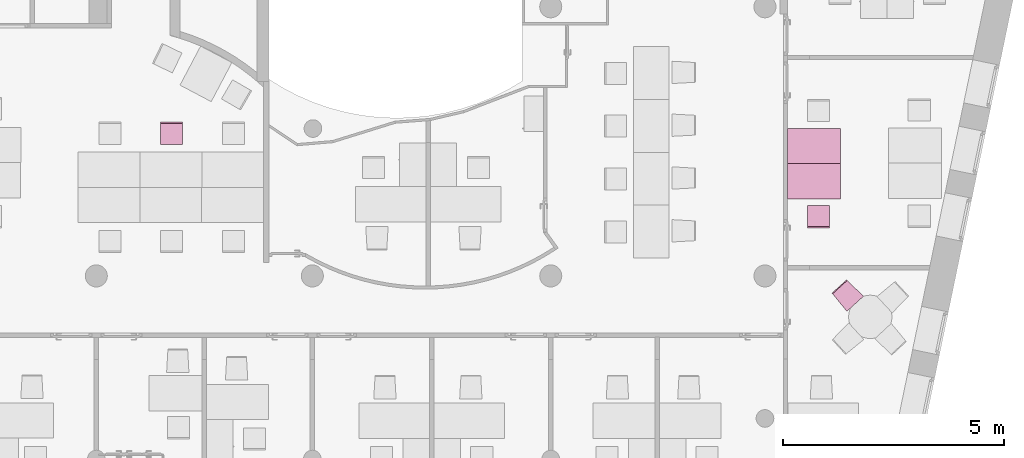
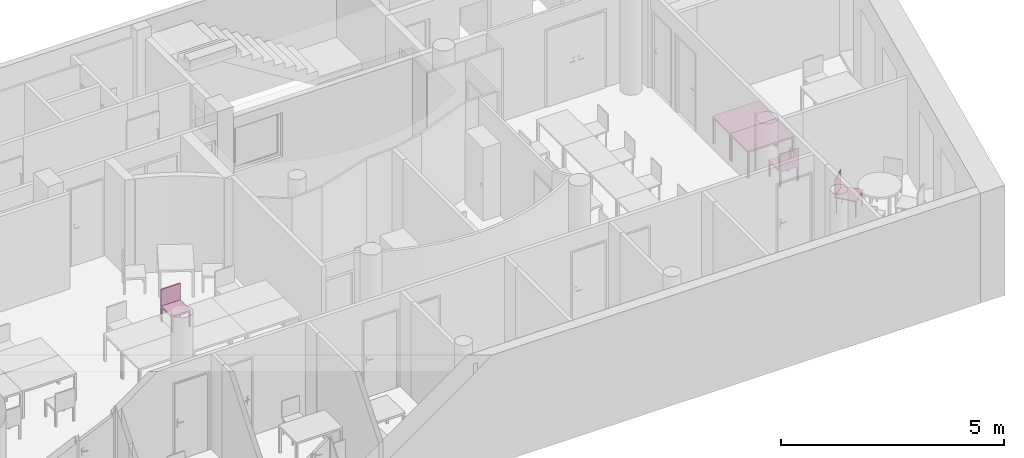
"""IFC4 building model written with IfcOpenShell, lengths in metres."""

import ifcopenshell
import ifcopenshell.guid

model = None  # the IFC model being written
_history = None  # IfcOwnerHistory: only IFC2X3 demands one
_inside = {}  # id of a spatial element -> (the spatial element, [elements in it])
_under = {}  # id of a project, library or spatial element -> (it, [spatial elements below it])
_declared = {}  # id of a project -> (the project, [libraries it declares])
_typed = {}  # id of a type object -> (the type object, [elements of that type])
_made_of = {}  # id of a material, layer set ... -> (it, [elements and type objects made of it])


def new_model(schema):
    """Start an empty IFC model of exactly this schema.

    Asked for "IFC4X3", IfcOpenShell would pick the latest addendum, in which some entities
    have other attributes; the version numbers below select the first issue.
    IFC2X3 requires an IfcOwnerHistory on every rooted entity: one is made here for all.
    """
    global model, _history
    if schema == "IFC4X3":
        model = ifcopenshell.file(schema_version=(4, 3, 0, 0))
    else:
        model = ifcopenshell.file(schema=schema)
    _inside.clear()
    _under.clear()
    _declared.clear()
    _typed.clear()
    _made_of.clear()
    _history = None
    if model.schema == "IFC2X3":
        org = make("IfcOrganization", Name="unknown")
        user = make(
            "IfcPersonAndOrganization",
            ThePerson=make("IfcPerson", FamilyName="unknown"),
            TheOrganization=org,
        )
        app = make(
            "IfcApplication",
            ApplicationDeveloper=org,
            Version="unknown",
            ApplicationFullName="unknown",
            ApplicationIdentifier="unknown",
        )
        _history = make(
            "IfcOwnerHistory",
            OwningUser=user,
            OwningApplication=app,
            ChangeAction="ADDED",
            CreationDate=0,
        )
    return model


def make(cls, **values):
    """One entity of the class cls with the attributes given. An attribute that is None is left unset."""
    return model.create_entity(
        cls, **{name: value for name, value in values.items() if value is not None}
    )


def entity(cls, *values):
    """Any entity or typed value of the class cls, its attributes in the order of the schema. None: left unset."""
    e = model.create_entity(cls)
    for i, value in enumerate(values):
        if value is not None:
            e[i] = value
    return e


def rooted(cls, **values):
    """An entity with a GlobalId (a new one), such as an element, a storey or a relation."""
    return make(cls, GlobalId=ifcopenshell.guid.new(), OwnerHistory=_history, **values)


def si_unit(unit_type, name, prefix=None):
    """IfcSIUnit, for example si_unit("LENGTHUNIT", "METRE", prefix="MILLI")."""
    return make("IfcSIUnit", UnitType=unit_type, Prefix=prefix, Name=name)


def converted_unit(unit_type, name, factor, base, dimensions=None, offset=None):
    """IfcConversionBasedUnit, such as the inch: factor (a typed value) times the base unit."""
    return make(
        "IfcConversionBasedUnit"
        if offset is None
        else "IfcConversionBasedUnitWithOffset",
        ConversionOffset=offset,
        Dimensions=None
        if dimensions is None
        else entity("IfcDimensionalExponents", *dimensions),
        UnitType=unit_type,
        Name=name,
        ConversionFactor=make(
            "IfcMeasureWithUnit", ValueComponent=factor, UnitComponent=base
        ),
    )


def derived_unit(unit_type, elements):
    """IfcDerivedUnit: a product of units, each with its exponent."""
    return make(
        "IfcDerivedUnit",
        Elements=[
            make("IfcDerivedUnitElement", Unit=unit, Exponent=power)
            for unit, power in elements
        ],
        UnitType=unit_type,
    )


def assignment(units):
    """IfcUnitAssignment: the units of a project."""
    return None if units is None else make("IfcUnitAssignment", Units=units)


def point(xyz):
    """IfcCartesianPoint."""
    return None if xyz is None else make("IfcCartesianPoint", Coordinates=xyz)


def direction(xyz):
    """IfcDirection."""
    return None if xyz is None else make("IfcDirection", DirectionRatios=xyz)


def frame(location, z_axis=None, x_axis=None):
    """IfcAxis2Placement3D, a coordinate frame: its origin and axes. An axis left out is left unset."""
    return make(
        "IfcAxis2Placement3D",
        Location=point(location),
        Axis=direction(z_axis),
        RefDirection=direction(x_axis),
    )


def origin():
    """The frame at (0, 0, 0) with its axes left unset."""
    return frame((0.0, 0.0, 0.0))


def place(relative_to, where):
    """IfcLocalPlacement: puts the frame where relative to a parent placement (None: the world)."""
    return make(
        "IfcLocalPlacement", PlacementRelTo=relative_to, RelativePlacement=where
    )


def context(
    kind, dimensions, precision=None, world=None, true_north=None, identifier=None
):
    """IfcGeometricRepresentationContext, for example the 3D "Model" context."""
    return make(
        "IfcGeometricRepresentationContext",
        ContextIdentifier=identifier,
        ContextType=kind,
        CoordinateSpaceDimension=dimensions,
        Precision=precision,
        WorldCoordinateSystem=world,
        TrueNorth=true_north,
    )


def subcontext(parent, identifier, kind, view, scale=None):
    """IfcGeometricRepresentationSubContext, for example "Body" below "Model"."""
    return make(
        "IfcGeometricRepresentationSubContext",
        ContextIdentifier=identifier,
        ContextType=kind,
        ParentContext=parent,
        TargetScale=scale,
        TargetView=view,
    )


def project(units=None, contexts=None):
    """IfcProject with its units and contexts."""
    return rooted(
        "IfcProject",
        Name="project",
        RepresentationContexts=contexts,
        UnitsInContext=assignment(units),
    )


def spatial(cls, under=None, at=None, **own):
    """A site, building, storey or space (cls), placed at a placement, below another one or the project."""
    s = rooted(cls, ObjectPlacement=at, **own)
    if under is not None:
        _under.setdefault(under.id(), (under, []))[1].append(s)
    return s


def faces_of(points, faces, orient=None, outer=None):
    """IfcFace entities. A face is a list of loops; a loop is a list of indices into points, from 0.

    orient and outer hold one flag for each loop. By default every Orientation is true, the
    first loop of a face is its IfcFaceOuterBound and the others are IfcFaceBound.
    """
    made = []
    for i, loops in enumerate(faces):
        bounds = []
        for j, loop in enumerate(loops):
            is_outer = j == 0 if outer is None else outer[i][j]
            bounds.append(
                make(
                    "IfcFaceOuterBound" if is_outer else "IfcFaceBound",
                    Bound=make("IfcPolyLoop", Polygon=[points[k] for k in loop]),
                    Orientation=True if orient is None else orient[i][j],
                )
            )
        made.append(make("IfcFace", Bounds=bounds))
    return made


def faceted_brep(points, faces, orient=None, outer=None, voids=None):
    """IfcFacetedBrep: a solid bounded by flat faces; with voids (closed shells), ...WithVoids."""
    shared = [point(p) for p in points]
    hull = make("IfcClosedShell", CfsFaces=faces_of(shared, faces, orient, outer))
    if voids is None:
        return make("IfcFacetedBrep", Outer=hull)
    return make(
        "IfcFacetedBrepWithVoids",
        Outer=hull,
        Voids=[
            make(cls, CfsFaces=faces_of(shared, fs, o, b)) for cls, fs, o, b in voids
        ],
    )


def shape(context_of_items, identifier, shape_type, items):
    """IfcShapeRepresentation: the items that make up one representation, for example the "Body"."""
    return make(
        "IfcShapeRepresentation",
        ContextOfItems=context_of_items,
        RepresentationIdentifier=identifier,
        RepresentationType=shape_type,
        Items=items,
    )


def made_of(thing, what):
    """Note that an element or type object is made of a material, layer set ...; save() writes the relation."""
    if what is not None:
        _made_of.setdefault(what.id(), (what, []))[1].append(thing)
    return thing


def element(
    cls,
    number,
    at=None,
    inside=None,
    cuts=None,
    type_object=None,
    material=None,
    context=None,
    identifier="Body",
    shape_type=None,
    held_by="IfcProductDefinitionShape",
    body=None,
    shapes=None,
    **own,
):
    """One element of the class cls, such as IfcWall. Its Tag is "e" and its number.

    at: its placement. inside: the storey or other place that contains it. cuts: it is an
    opening in that element (IfcRelVoidsElement). A single representation is given by context,
    identifier, shape_type and body (its items); several are given by shapes. held_by: the class
    of the entity that holds the representations. save() writes the other relations.
    """
    e = rooted(cls, Tag="e%d" % number, ObjectPlacement=at, **own)
    if body is not None:
        shapes = [shape(context, identifier, shape_type, body)]
    if shapes is not None:
        e.Representation = make(held_by, Representations=shapes)
    if inside is not None:
        _inside.setdefault(inside.id(), (inside, []))[1].append(e)
    if cuts is not None:
        rooted(
            "IfcRelVoidsElement", RelatingBuildingElement=cuts, RelatedOpeningElement=e
        )
    if type_object is not None:
        _typed.setdefault(type_object.id(), (type_object, []))[1].append(e)
    return made_of(e, material)


def aggregate(whole, parts):
    """IfcRelAggregates: a whole, such as a stair, and the parts it consists of."""
    return rooted("IfcRelAggregates", RelatingObject=whole, RelatedObjects=parts)


def save(model, path):
    """Write the relations noted so far, then the file.

    IfcRelAggregates (storeys below a building ...), IfcRelContainedInSpatialStructure (elements
    in a storey), IfcRelDefinesByType, IfcRelAssociatesMaterial and IfcRelDeclares: one each for
    every whole, place, type object, material and project.
    """
    for whole, parts in _under.values():
        aggregate(whole, parts)
    for where, things in _inside.values():
        rooted(
            "IfcRelContainedInSpatialStructure",
            RelatedElements=things,
            RelatingStructure=where,
        )
    for kind, things in _typed.values():
        rooted("IfcRelDefinesByType", RelatedObjects=things, RelatingType=kind)
    for what, things in _made_of.values():
        rooted("IfcRelAssociatesMaterial", RelatedObjects=things, RelatingMaterial=what)
    for by, libraries in _declared.values():
        rooted("IfcRelDeclares", RelatingContext=by, RelatedDefinitions=libraries)
    model.write(path)


model = new_model("IFC4")

# Units and contexts
model_context = context("Model", 3, precision=1e-05, world=origin())
body_context = subcontext(model_context, "Body", "Model", "MODEL_VIEW")
ifc_project = project(units=[si_unit("LENGTHUNIT", "METRE"), si_unit("AREAUNIT", "SQUARE_METRE"), si_unit("VOLUMEUNIT", "CUBIC_METRE"), si_unit("MASSUNIT", "GRAM", prefix="KILO"), converted_unit("PLANEANGLEUNIT", "DEGREE", entity("IfcPlaneAngleMeasure", 0.0174532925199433), si_unit("PLANEANGLEUNIT", "RADIAN"), dimensions=[0, 0, 0, 0, 0, 0, 0]), derived_unit("THERMALTRANSMITTANCEUNIT", [(si_unit("POWERUNIT", "WATT"), 1), (si_unit("THERMODYNAMICTEMPERATUREUNIT", "KELVIN"), -1), (si_unit("LENGTHUNIT", "METRE"), -2)]), derived_unit("VOLUMETRICFLOWRATEUNIT", [(si_unit("LENGTHUNIT", "METRE"), 3), (converted_unit("TIMEUNIT", "hour", entity("IfcTimeMeasure", 3600.0), si_unit("TIMEUNIT", "SECOND"), dimensions=[0, 0, 1, 0, 0, 0, 0]), -1), (si_unit("LENGTHUNIT", "METRE"), -1)])], contexts=[model_context])

# Building, storeys
building_placement = place(None, origin())
building = spatial("IfcBuilding", under=ifc_project, at=building_placement, Name="HABITATGE PLURIFAMILIAR", CompositionType="ELEMENT")
storey_1_placement = place(building_placement, frame((0.0, 0.0, 6.25)))
storey_1 = spatial("IfcBuildingStorey", under=building, at=storey_1_placement, Name="PLANTA PRIMERA", CompositionType="ELEMENT", Elevation=6.25)
storey_2_placement = place(storey_1_placement, frame((0.0, 0.0, 3.35)))
storey_2 = spatial("IfcBuildingStorey", under=storey_1, at=storey_2_placement, Name="NOU", CompositionType="PARTIAL")

# Furniture
furniture_1_placement = place(storey_2_placement, frame((421.506984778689, 20.3428302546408, -3.35)))
element("IfcFurniture", 1, at=furniture_1_placement, inside=storey_2, Name="Taula 120X80_P1", context=body_context, shape_type="Brep", body=[
    faceted_brep([(0.046428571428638, 0.0500000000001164, 0.0), (0.0, 0.0500000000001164, 0.0), (0.0, 0.0, 0.0), (0.046428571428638, 0.0, 0.0), (0.046428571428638, 0.0, 0.7), (0.0, 0.0, 0.7), (0.0, 0.0500000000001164, 0.7), (0.046428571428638, 0.0500000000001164, 0.7)], [[[0, 1, 2, 3]], [[4, 5, 6, 7]], [[3, 4, 7, 0]], [[2, 5, 4, 3]], [[1, 6, 5, 2]], [[0, 7, 6, 1]]], orient=[[False], [False], [False], [False], [False], [False]]),
    faceted_brep([(0.046428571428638, 0.800069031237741, 0.0), (0.0, 0.800069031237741, 0.0), (0.0, 0.750069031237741, 0.0), (0.046428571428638, 0.750069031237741, 0.0), (0.046428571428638, 0.750069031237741, 0.7), (0.0, 0.750069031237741, 0.7), (0.0, 0.800069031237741, 0.7), (0.046428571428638, 0.800069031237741, 0.7)], [[[0, 1, 2, 3]], [[4, 5, 6, 7]], [[3, 4, 7, 0]], [[2, 5, 4, 3]], [[1, 6, 5, 2]], [[0, 7, 6, 1]]], orient=[[False], [False], [False], [False], [False], [False]]),
    faceted_brep([(1.20000000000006, 0.05, 0.0), (1.15357142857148, 0.05, 0.0), (1.15357142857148, 0.0, 0.0), (1.20000000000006, 0.0, 0.0), (1.20000000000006, 0.0, 0.7), (1.15357142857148, 0.0, 0.7), (1.15357142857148, 0.05, 0.7), (1.20000000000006, 0.05, 0.7)], [[[0, 1, 2, 3]], [[4, 5, 6, 7]], [[3, 4, 7, 0]], [[2, 5, 4, 3]], [[1, 6, 5, 2]], [[0, 7, 6, 1]]], orient=[[False], [False], [False], [False], [False], [False]]),
    faceted_brep([(1.20000000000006, 0.800069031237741, 0.0), (1.15357142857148, 0.800069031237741, 0.0), (1.15357142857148, 0.750069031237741, 0.0), (1.20000000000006, 0.750069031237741, 0.0), (1.20000000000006, 0.750069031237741, 0.7), (1.15357142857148, 0.750069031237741, 0.7), (1.15357142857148, 0.800069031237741, 0.7), (1.20000000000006, 0.800069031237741, 0.7)], [[[0, 1, 2, 3]], [[4, 5, 6, 7]], [[3, 4, 7, 0]], [[2, 5, 4, 3]], [[1, 6, 5, 2]], [[0, 7, 6, 1]]], orient=[[False], [False], [False], [False], [False], [False]]),
    faceted_brep([(1.20000000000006, 0.800069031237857, 0.7), (0.0, 0.800069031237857, 0.7), (0.0, 0.0, 0.7), (1.20000000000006, 0.0, 0.7), (1.20000000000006, 0.0, 0.75), (0.0, 0.0, 0.75), (0.0, 0.800069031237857, 0.75), (1.20000000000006, 0.800069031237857, 0.75)], [[[0, 1, 2, 3]], [[4, 5, 6, 7]], [[3, 4, 7, 0]], [[2, 5, 4, 3]], [[1, 6, 5, 2]], [[0, 7, 6, 1]]], orient=[[False], [False], [False], [False], [False], [False]]),
])
furniture_2_placement = place(storey_2_placement, frame((421.506984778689, 19.5427612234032, -3.35)))
element("IfcFurniture", 2, at=furniture_2_placement, inside=storey_2, Name="Taula 120X80_P1", context=body_context, shape_type="Brep", body=[
    faceted_brep([(0.046428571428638, 0.750069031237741, 0.0), (0.046428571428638, 0.800069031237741, 0.0), (0.0, 0.800069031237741, 0.0), (0.0, 0.750069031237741, 0.0), (0.046428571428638, 0.800069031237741, 0.7), (0.046428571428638, 0.750069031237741, 0.7), (0.0, 0.750069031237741, 0.7), (0.0, 0.800069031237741, 0.7)], [[[0, 1, 2, 3]], [[4, 5, 6, 7]], [[1, 0, 5, 4]], [[2, 1, 4, 7]], [[3, 2, 7, 6]], [[0, 3, 6, 5]]], orient=[[False], [False], [False], [False], [False], [False]]),
    faceted_brep([(0.046428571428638, 0.0, 0.0), (0.046428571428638, 0.0500000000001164, 0.0), (0.0, 0.0500000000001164, 0.0), (0.0, 0.0, 0.0), (0.046428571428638, 0.0500000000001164, 0.7), (0.046428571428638, 0.0, 0.7), (0.0, 0.0, 0.7), (0.0, 0.0500000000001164, 0.7)], [[[0, 1, 2, 3]], [[4, 5, 6, 7]], [[1, 0, 5, 4]], [[2, 1, 4, 7]], [[3, 2, 7, 6]], [[0, 3, 6, 5]]], orient=[[False], [False], [False], [False], [False], [False]]),
    faceted_brep([(1.20000000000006, 0.750069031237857, 0.0), (1.20000000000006, 0.800069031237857, 0.0), (1.15357142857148, 0.800069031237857, 0.0), (1.15357142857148, 0.750069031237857, 0.0), (1.20000000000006, 0.800069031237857, 0.7), (1.20000000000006, 0.750069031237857, 0.7), (1.15357142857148, 0.750069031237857, 0.7), (1.15357142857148, 0.800069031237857, 0.7)], [[[0, 1, 2, 3]], [[4, 5, 6, 7]], [[1, 0, 5, 4]], [[2, 1, 4, 7]], [[3, 2, 7, 6]], [[0, 3, 6, 5]]], orient=[[False], [False], [False], [False], [False], [False]]),
    faceted_brep([(1.20000000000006, 0.0, 0.0), (1.20000000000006, 0.0500000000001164, 0.0), (1.15357142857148, 0.0500000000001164, 0.0), (1.15357142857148, 0.0, 0.0), (1.20000000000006, 0.0500000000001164, 0.7), (1.20000000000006, 0.0, 0.7), (1.15357142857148, 0.0, 0.7), (1.15357142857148, 0.0500000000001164, 0.7)], [[[0, 1, 2, 3]], [[4, 5, 6, 7]], [[1, 0, 5, 4]], [[2, 1, 4, 7]], [[3, 2, 7, 6]], [[0, 3, 6, 5]]], orient=[[False], [False], [False], [False], [False], [False]]),
    faceted_brep([(1.20000000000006, 0.0, 0.7), (1.20000000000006, 0.800069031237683, 0.7), (0.0, 0.800069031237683, 0.7), (0.0, 0.0, 0.7), (1.20000000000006, 0.800069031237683, 0.75), (1.20000000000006, 0.0, 0.75), (0.0, 0.0, 0.75), (0.0, 0.800069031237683, 0.75)], [[[0, 1, 2, 3]], [[4, 5, 6, 7]], [[1, 0, 5, 4]], [[2, 1, 4, 7]], [[3, 2, 7, 6]], [[0, 3, 6, 5]]], orient=[[False], [False], [False], [False], [False], [False]]),
])
furniture_3_placement = place(storey_2_placement, frame((421.952713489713, 18.8908335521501, -3.34942958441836)))
element("IfcFurniture", 3, at=furniture_3_placement, inside=storey_2, Name="Cadira d'Oficina_P1", context=body_context, shape_type="Brep", body=[
    faceted_brep([(0.0, 0.5, 0.4), (0.0, 0.0, 0.4), (0.5, 0.0, 0.4), (0.5, 0.5, 0.4), (0.0, 0.0, 0.45), (0.0, 0.5, 0.45), (0.5, 0.5, 0.45), (0.5, 0.0, 0.45)], [[[0, 1, 2, 3]], [[4, 5, 6, 7]], [[1, 0, 5, 4]], [[2, 1, 4, 7]], [[3, 2, 7, 6]], [[0, 3, 6, 5]]], orient=[[False], [False], [False], [False], [False], [False]]),
    faceted_brep([(0.5, 0.04, 0.0), (0.46, 0.04, 0.0), (0.46, 0.0, 0.0), (0.5, 0.0, 0.0), (0.46, 0.04, 0.4), (0.5, 0.04, 0.4), (0.5, 0.0, 0.4), (0.46, 0.0, 0.4)], [[[0, 1, 2, 3]], [[4, 5, 6, 7]], [[1, 0, 5, 4]], [[2, 1, 4, 7]], [[3, 2, 7, 6]], [[0, 3, 6, 5]]], orient=[[False], [False], [False], [False], [False], [False]]),
    faceted_brep([(0.5, 0.5, 0.0), (0.46, 0.5, 0.0), (0.46, 0.46, 0.0), (0.5, 0.46, 0.0), (0.46, 0.5, 0.4), (0.5, 0.5, 0.4), (0.5, 0.46, 0.4), (0.46, 0.46, 0.4)], [[[0, 1, 2, 3]], [[4, 5, 6, 7]], [[1, 0, 5, 4]], [[2, 1, 4, 7]], [[3, 2, 7, 6]], [[0, 3, 6, 5]]], orient=[[False], [False], [False], [False], [False], [False]]),
    faceted_brep([(0.04, 0.04, 0.0), (0.0, 0.04, 0.0), (0.0, 0.0, 0.0), (0.04, 0.0, 0.0), (0.0, 0.04, 0.4), (0.04, 0.04, 0.4), (0.04, 0.0, 0.4), (0.0, 0.0, 0.4)], [[[0, 1, 2, 3]], [[4, 5, 6, 7]], [[1, 0, 5, 4]], [[2, 1, 4, 7]], [[3, 2, 7, 6]], [[0, 3, 6, 5]]], orient=[[False], [False], [False], [False], [False], [False]]),
    faceted_brep([(0.04, 0.5, 0.0), (0.0, 0.5, 0.0), (0.0, 0.46, 0.0), (0.04, 0.46, 0.0), (0.0, 0.5, 0.4), (0.04, 0.5, 0.4), (0.04, 0.46, 0.4), (0.0, 0.46, 0.4)], [[[0, 1, 2, 3]], [[4, 5, 6, 7]], [[1, 0, 5, 4]], [[2, 1, 4, 7]], [[3, 2, 7, 6]], [[0, 3, 6, 5]]], orient=[[False], [False], [False], [False], [False], [False]]),
    faceted_brep([(0.5, 0.03, 0.45), (0.0, 0.03, 0.45), (0.0, 0.0, 0.45), (0.5, 0.0, 0.45), (0.0, 0.03, 0.9), (0.5, 0.03, 0.9), (0.5, 0.0, 0.9), (0.0, 0.0, 0.9)], [[[0, 1, 2, 3]], [[4, 5, 6, 7]], [[1, 0, 5, 4]], [[2, 1, 4, 7]], [[3, 2, 7, 6]], [[0, 3, 6, 5]]], orient=[[False], [False], [False], [False], [False], [False]]),
])
furniture_4_placement = place(storey_2_placement, frame((407.293907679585, 20.7827469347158, -3.34942958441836)))
element("IfcFurniture", 4, at=furniture_4_placement, inside=storey_2, Name="Cadira d'Oficina_P1", context=body_context, shape_type="Brep", body=[
    faceted_brep([(0.5, 0.0, 0.4), (0.5, 0.5, 0.4), (0.0, 0.5, 0.4), (0.0, 0.0, 0.4), (0.5, 0.5, 0.45), (0.5, 0.0, 0.45), (0.0, 0.0, 0.45), (0.0, 0.5, 0.45)], [[[0, 1, 2, 3]], [[4, 5, 6, 7]], [[1, 0, 5, 4]], [[2, 1, 4, 7]], [[3, 2, 7, 6]], [[0, 3, 6, 5]]], orient=[[False], [False], [False], [False], [False], [False]]),
    faceted_brep([(0.0, 0.46, 0.0), (0.04, 0.46, 0.0), (0.04, 0.5, 0.0), (0.0, 0.5, 0.0), (0.04, 0.46, 0.4), (0.0, 0.46, 0.4), (0.0, 0.5, 0.4), (0.04, 0.5, 0.4)], [[[0, 1, 2, 3]], [[4, 5, 6, 7]], [[1, 0, 5, 4]], [[2, 1, 4, 7]], [[3, 2, 7, 6]], [[0, 3, 6, 5]]], orient=[[False], [False], [False], [False], [False], [False]]),
    faceted_brep([(0.0, 0.0, 0.0), (0.04, 0.0, 0.0), (0.04, 0.04, 0.0), (0.0, 0.04, 0.0), (0.04, 0.0, 0.4), (0.0, 0.0, 0.4), (0.0, 0.04, 0.4), (0.04, 0.04, 0.4)], [[[0, 1, 2, 3]], [[4, 5, 6, 7]], [[1, 0, 5, 4]], [[2, 1, 4, 7]], [[3, 2, 7, 6]], [[0, 3, 6, 5]]], orient=[[False], [False], [False], [False], [False], [False]]),
    faceted_brep([(0.46, 0.46, 0.0), (0.5, 0.46, 0.0), (0.5, 0.5, 0.0), (0.46, 0.5, 0.0), (0.5, 0.46, 0.4), (0.46, 0.46, 0.4), (0.46, 0.5, 0.4), (0.5, 0.5, 0.4)], [[[0, 1, 2, 3]], [[4, 5, 6, 7]], [[1, 0, 5, 4]], [[2, 1, 4, 7]], [[3, 2, 7, 6]], [[0, 3, 6, 5]]], orient=[[False], [False], [False], [False], [False], [False]]),
    faceted_brep([(0.46, 0.0, 0.0), (0.5, 0.0, 0.0), (0.5, 0.04, 0.0), (0.46, 0.04, 0.0), (0.5, 0.0, 0.4), (0.46, 0.0, 0.4), (0.46, 0.04, 0.4), (0.5, 0.04, 0.4)], [[[0, 1, 2, 3]], [[4, 5, 6, 7]], [[1, 0, 5, 4]], [[2, 1, 4, 7]], [[3, 2, 7, 6]], [[0, 3, 6, 5]]], orient=[[False], [False], [False], [False], [False], [False]]),
    faceted_brep([(0.0, 0.47, 0.45), (0.5, 0.47, 0.45), (0.5, 0.5, 0.45), (0.0, 0.5, 0.45), (0.5, 0.47, 0.9), (0.0, 0.47, 0.9), (0.0, 0.5, 0.9), (0.5, 0.5, 0.9)], [[[0, 1, 2, 3]], [[4, 5, 6, 7]], [[1, 0, 5, 4]], [[2, 1, 4, 7]], [[3, 2, 7, 6]], [[0, 3, 6, 5]]], orient=[[False], [False], [False], [False], [False], [False]]),
])
furniture_5_placement = place(storey_2_placement, frame((422.51286133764, 16.9968442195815, -3.35114412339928)))
element("IfcFurniture", 5, at=furniture_5_placement, inside=storey_2, Name="Cadira confient_P1", context=body_context, shape_type="Brep", body=[
    faceted_brep([(0.326821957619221, 0.024751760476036, 0.0), (0.328745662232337, 0.022996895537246, 0.0), (0.330944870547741, 0.021602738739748, 0.0), (0.333352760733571, 0.0206116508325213, 0.0), (0.335896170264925, 0.0200537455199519, 0.0), (0.338497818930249, 0.0199459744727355, 0.0), (0.341078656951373, 0.0202916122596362, 0.0), (0.343560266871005, 0.021080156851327, 0.0), (0.345867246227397, 0.0222876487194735, 0.0), (0.347929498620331, 0.0238773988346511, 0.0), (0.349684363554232, 0.0258011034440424, 0.0), (0.351078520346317, 0.028000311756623, 0.0), (0.352069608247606, 0.0304082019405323, 0.0), (0.352627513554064, 0.0329516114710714, 0.0), (0.35273528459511, 0.0355532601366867, 0.0), (0.352389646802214, 0.0381340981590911, 0.0), (0.351601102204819, 0.0406157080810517, 0.0), (0.350393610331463, 0.0429226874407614, 0.0), (0.348803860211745, 0.0449849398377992, 0.0), (0.34688015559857, 0.0467398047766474, 0.0), (0.344680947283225, 0.0481339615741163, 0.0), (0.342273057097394, 0.0491250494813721, 0.0), (0.339729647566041, 0.0496829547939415, 0.0), (0.337127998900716, 0.0497907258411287, 0.0), (0.334547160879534, 0.0494450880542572, 0.0), (0.332065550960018, 0.0486565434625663, 0.0), (0.329758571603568, 0.0474490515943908, 0.0), (0.327696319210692, 0.0458593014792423, 0.0), (0.325941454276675, 0.0439355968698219, 0.0), (0.324547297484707, 0.0417363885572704, 0.0), (0.323556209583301, 0.0393284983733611, 0.0), (0.322998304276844, 0.0367850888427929, 0.0), (0.322890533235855, 0.0341834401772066, 0.0), (0.323236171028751, 0.0316026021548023, 0.0), (0.324024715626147, 0.0291209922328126, 0.0), (0.325232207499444, 0.026814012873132, 0.0), (0.326821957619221, 0.024751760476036, 0.448281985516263), (0.325232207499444, 0.026814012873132, 0.448281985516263), (0.324024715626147, 0.0291209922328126, 0.448281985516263), (0.323236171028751, 0.0316026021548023, 0.448281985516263), (0.322890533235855, 0.0341834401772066, 0.448281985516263), (0.322998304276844, 0.0367850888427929, 0.448281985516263), (0.323556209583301, 0.0393284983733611, 0.448281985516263), (0.324547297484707, 0.0417363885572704, 0.448281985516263), (0.325941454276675, 0.0439355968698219, 0.448281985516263), (0.327696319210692, 0.0458593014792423, 0.448281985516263), (0.329758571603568, 0.0474490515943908, 0.448281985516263), (0.332065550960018, 0.0486565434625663, 0.448281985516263), (0.334547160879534, 0.0494450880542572, 0.448281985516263), (0.337127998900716, 0.0497907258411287, 0.448281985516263), (0.339729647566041, 0.0496829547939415, 0.448281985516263), (0.342273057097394, 0.0491250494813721, 0.448281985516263), (0.344680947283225, 0.0481339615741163, 0.448281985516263), (0.34688015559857, 0.0467398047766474, 0.448281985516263), (0.348803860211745, 0.0449849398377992, 0.448281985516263), (0.350393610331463, 0.0429226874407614, 0.448281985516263), (0.351601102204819, 0.0406157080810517, 0.448281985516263), (0.352389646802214, 0.0381340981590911, 0.448281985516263), (0.35273528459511, 0.0355532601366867, 0.448281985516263), (0.352627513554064, 0.0329516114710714, 0.448281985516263), (0.352069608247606, 0.0304082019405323, 0.448281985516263), (0.351078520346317, 0.028000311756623, 0.448281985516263), (0.349684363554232, 0.0258011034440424, 0.448281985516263), (0.347929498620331, 0.0238773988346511, 0.448281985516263), (0.345867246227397, 0.0222876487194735, 0.448281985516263), (0.343560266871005, 0.021080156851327, 0.448281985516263), (0.341078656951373, 0.0202916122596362, 0.448281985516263), (0.338497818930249, 0.0199459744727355, 0.448281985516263), (0.335896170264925, 0.0200537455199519, 0.448281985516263), (0.333352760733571, 0.0206116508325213, 0.448281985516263), (0.330944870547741, 0.021602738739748, 0.448281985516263), (0.328745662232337, 0.022996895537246, 0.448281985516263)], [[[0, 1, 2, 3, 4, 5, 6, 7, 8, 9, 10, 11, 12, 13, 14, 15, 16, 17, 18, 19, 20, 21, 22, 23, 24, 25, 26, 27, 28, 29, 30, 31, 32, 33, 34, 35]], [[36, 37, 38, 39, 40, 41, 42, 43, 44, 45, 46, 47, 48, 49, 50, 51, 52, 53, 54, 55, 56, 57, 58, 59, 60, 61, 62, 63, 64, 65, 66, 67, 68, 69, 70, 71]], [[35, 37, 36, 0]], [[34, 38, 37, 35]], [[33, 39, 38, 34]], [[32, 40, 39, 33]], [[31, 41, 40, 32]], [[30, 42, 41, 31]], [[29, 43, 42, 30]], [[28, 44, 43, 29]], [[27, 45, 44, 28]], [[26, 46, 45, 27]], [[25, 47, 46, 26]], [[24, 48, 47, 25]], [[23, 49, 48, 24]], [[22, 50, 49, 23]], [[21, 51, 50, 22]], [[20, 52, 51, 21]], [[19, 53, 52, 20]], [[18, 54, 53, 19]], [[17, 55, 54, 18]], [[16, 56, 55, 17]], [[15, 57, 56, 16]], [[14, 58, 57, 15]], [[13, 59, 58, 14]], [[12, 60, 59, 13]], [[11, 61, 60, 12]], [[10, 62, 61, 11]], [[9, 63, 62, 10]], [[8, 64, 63, 9]], [[7, 65, 64, 8]], [[6, 66, 65, 7]], [[5, 67, 66, 6]], [[4, 68, 67, 5]], [[3, 69, 68, 4]], [[2, 70, 69, 3]], [[1, 71, 70, 2]], [[0, 36, 71, 1]]], orient=[[False], [False], [False], [False], [False], [False], [False], [False], [False], [False], [False], [False], [False], [False], [False], [False], [False], [False], [False], [False], [False], [False], [False], [False], [False], [False], [False], [False], [False], [False], [False], [False], [False], [False], [False], [False], [False], [False]]),
    faceted_brep([(0.0355609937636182, 0.384961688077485, 0.0), (0.0374846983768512, 0.383206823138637, 0.0), (0.0396839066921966, 0.381812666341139, 0.0), (0.0420917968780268, 0.380821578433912, 0.0), (0.0446352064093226, 0.380263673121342, 0.0), (0.0472368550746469, 0.380155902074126, 0.0), (0.0498176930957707, 0.380501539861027, 0.0), (0.052299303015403, 0.381290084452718, 0.0), (0.054606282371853, 0.382497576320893, 0.0), (0.056668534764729, 0.384087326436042, 0.0), (0.0584233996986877, 0.386011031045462, 0.0), (0.0598175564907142, 0.388210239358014, 0.0), (0.060808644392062, 0.390618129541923, 0.0), (0.0613665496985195, 0.393161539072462, 0.0), (0.0614743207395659, 0.395763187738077, 0.0), (0.0611286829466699, 0.398344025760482, 0.0), (0.0603401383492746, 0.400825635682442, 0.0), (0.0591326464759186, 0.403132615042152, 0.0), (0.0575428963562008, 0.405194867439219, 0.0), (0.0556191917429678, 0.406949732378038, 0.0), (0.0534199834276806, 0.408343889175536, 0.0), (0.0510120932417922, 0.409334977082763, 0.0), (0.0484686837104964, 0.409892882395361, 0.0), (0.0458670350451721, 0.410000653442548, 0.0), (0.0432861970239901, 0.409655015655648, 0.0), (0.040804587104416, 0.408866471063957, 0.0), (0.0384976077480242, 0.40765897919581, 0.0), (0.03643535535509, 0.406069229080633, 0.0), (0.0346804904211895, 0.404145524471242, 0.0), (0.0332863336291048, 0.401946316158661, 0.0), (0.0322952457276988, 0.399538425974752, 0.0), (0.0317373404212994, 0.396995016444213, 0.0), (0.0316295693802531, 0.394393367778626, 0.0), (0.0319752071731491, 0.391812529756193, 0.0), (0.0327637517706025, 0.389330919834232, 0.0), (0.0339712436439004, 0.387023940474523, 0.0), (0.0355609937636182, 0.384961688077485, 0.448281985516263), (0.0339712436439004, 0.387023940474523, 0.448281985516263), (0.0327637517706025, 0.389330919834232, 0.448281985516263), (0.0319752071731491, 0.391812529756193, 0.448281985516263), (0.0316295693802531, 0.394393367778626, 0.448281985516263), (0.0317373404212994, 0.396995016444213, 0.448281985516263), (0.0322952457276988, 0.399538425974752, 0.448281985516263), (0.0332863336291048, 0.401946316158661, 0.448281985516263), (0.0346804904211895, 0.404145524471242, 0.448281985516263), (0.03643535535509, 0.406069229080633, 0.448281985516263), (0.0384976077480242, 0.40765897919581, 0.448281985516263), (0.040804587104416, 0.408866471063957, 0.448281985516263), (0.0432861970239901, 0.409655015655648, 0.448281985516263), (0.0458670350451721, 0.410000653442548, 0.448281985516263), (0.0484686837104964, 0.409892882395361, 0.448281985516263), (0.0510120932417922, 0.409334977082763, 0.448281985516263), (0.0534199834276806, 0.408343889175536, 0.448281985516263), (0.0556191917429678, 0.406949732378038, 0.448281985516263), (0.0575428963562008, 0.405194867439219, 0.448281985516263), (0.0591326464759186, 0.403132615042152, 0.448281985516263), (0.0603401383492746, 0.400825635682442, 0.448281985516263), (0.0611286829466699, 0.398344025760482, 0.448281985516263), (0.0614743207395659, 0.395763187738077, 0.448281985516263), (0.0613665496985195, 0.393161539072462, 0.448281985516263), (0.060808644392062, 0.390618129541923, 0.448281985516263), (0.0598175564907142, 0.388210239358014, 0.448281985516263), (0.0584233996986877, 0.386011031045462, 0.448281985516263), (0.056668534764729, 0.384087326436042, 0.448281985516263), (0.054606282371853, 0.382497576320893, 0.448281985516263), (0.052299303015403, 0.381290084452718, 0.448281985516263), (0.0498176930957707, 0.380501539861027, 0.448281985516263), (0.0472368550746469, 0.380155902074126, 0.448281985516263), (0.0446352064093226, 0.380263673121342, 0.448281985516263), (0.0420917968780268, 0.380821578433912, 0.448281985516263), (0.0396839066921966, 0.381812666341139, 0.448281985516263), (0.0374846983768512, 0.383206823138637, 0.448281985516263)], [[[0, 1, 2, 3, 4, 5, 6, 7, 8, 9, 10, 11, 12, 13, 14, 15, 16, 17, 18, 19, 20, 21, 22, 23, 24, 25, 26, 27, 28, 29, 30, 31, 32, 33, 34, 35]], [[36, 37, 38, 39, 40, 41, 42, 43, 44, 45, 46, 47, 48, 49, 50, 51, 52, 53, 54, 55, 56, 57, 58, 59, 60, 61, 62, 63, 64, 65, 66, 67, 68, 69, 70, 71]], [[35, 37, 36, 0]], [[34, 38, 37, 35]], [[33, 39, 38, 34]], [[32, 40, 39, 33]], [[31, 41, 40, 32]], [[30, 42, 41, 31]], [[29, 43, 42, 30]], [[28, 44, 43, 29]], [[27, 45, 44, 28]], [[26, 46, 45, 27]], [[25, 47, 46, 26]], [[24, 48, 47, 25]], [[23, 49, 48, 24]], [[22, 50, 49, 23]], [[21, 51, 50, 22]], [[20, 52, 51, 21]], [[19, 53, 52, 20]], [[18, 54, 53, 19]], [[17, 55, 54, 18]], [[16, 56, 55, 17]], [[15, 57, 56, 16]], [[14, 58, 57, 15]], [[13, 59, 58, 14]], [[12, 60, 59, 13]], [[11, 61, 60, 12]], [[10, 62, 61, 11]], [[9, 63, 62, 10]], [[8, 64, 63, 9]], [[7, 65, 64, 8]], [[6, 66, 65, 7]], [[5, 67, 66, 6]], [[4, 68, 67, 5]], [[3, 69, 68, 4]], [[2, 70, 69, 3]], [[1, 71, 70, 2]], [[0, 36, 71, 1]]], orient=[[False], [False], [False], [False], [False], [False], [False], [False], [False], [False], [False], [False], [False], [False], [False], [False], [False], [False], [False], [False], [False], [False], [False], [False], [False], [False], [False], [False], [False], [False], [False], [False], [False], [False], [False], [False], [False], [False]]),
    faceted_brep([(0.666624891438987, 0.334806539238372, 0.0), (0.668548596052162, 0.333051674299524, 0.0), (0.670747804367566, 0.331657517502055, 0.0), (0.673155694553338, 0.330666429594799, 0.0), (0.675699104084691, 0.33010852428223, 0.0), (0.678300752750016, 0.330000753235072, 0.0), (0.68088159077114, 0.330346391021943, 0.0), (0.683363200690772, 0.331134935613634, 0.0), (0.685670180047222, 0.332342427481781, 0.0), (0.687732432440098, 0.333932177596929, 0.0), (0.689487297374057, 0.33585588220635, 0.0), (0.690881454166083, 0.338055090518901, 0.0), (0.691872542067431, 0.34046298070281, 0.0), (0.692430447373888, 0.343006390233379, 0.0), (0.692538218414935, 0.345608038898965, 0.0), (0.692192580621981, 0.348188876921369, 0.0), (0.691404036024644, 0.350670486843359, 0.0), (0.690196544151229, 0.35297746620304, 0.0), (0.68860679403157, 0.355039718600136, 0.0), (0.686683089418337, 0.356794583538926, 0.0), (0.684483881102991, 0.358188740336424, 0.0), (0.682075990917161, 0.35917982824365, 0.0), (0.679532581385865, 0.359737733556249, 0.0), (0.676930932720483, 0.359845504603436, 0.0), (0.674350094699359, 0.359499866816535, 0.0), (0.671868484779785, 0.358711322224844, 0.0), (0.669561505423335, 0.357503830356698, 0.0), (0.667499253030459, 0.35591408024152, 0.0), (0.6657443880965, 0.353990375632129, 0.0), (0.664350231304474, 0.351791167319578, 0.0), (0.663359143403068, 0.349383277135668, 0.0), (0.66280123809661, 0.346839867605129, 0.0), (0.662693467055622, 0.344238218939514, 0.0), (0.663039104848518, 0.34165738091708, 0.0), (0.663827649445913, 0.33917577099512, 0.0), (0.665035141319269, 0.33686879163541, 0.0), (0.666624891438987, 0.334806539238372, 0.448281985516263), (0.665035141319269, 0.33686879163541, 0.448281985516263), (0.663827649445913, 0.33917577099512, 0.448281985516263), (0.663039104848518, 0.34165738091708, 0.448281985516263), (0.662693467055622, 0.344238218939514, 0.448281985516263), (0.66280123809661, 0.346839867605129, 0.448281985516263), (0.663359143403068, 0.349383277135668, 0.448281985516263), (0.664350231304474, 0.351791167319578, 0.448281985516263), (0.6657443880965, 0.353990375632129, 0.448281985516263), (0.667499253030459, 0.35591408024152, 0.448281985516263), (0.669561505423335, 0.357503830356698, 0.448281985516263), (0.671868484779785, 0.358711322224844, 0.448281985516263), (0.674350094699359, 0.359499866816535, 0.448281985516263), (0.676930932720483, 0.359845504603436, 0.448281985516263), (0.679532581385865, 0.359737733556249, 0.448281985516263), (0.682075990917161, 0.35917982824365, 0.448281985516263), (0.684483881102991, 0.358188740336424, 0.448281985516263), (0.686683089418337, 0.356794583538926, 0.448281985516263), (0.68860679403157, 0.355039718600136, 0.448281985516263), (0.690196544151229, 0.35297746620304, 0.448281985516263), (0.691404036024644, 0.350670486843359, 0.448281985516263), (0.692192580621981, 0.348188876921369, 0.448281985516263), (0.692538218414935, 0.345608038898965, 0.448281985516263), (0.692430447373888, 0.343006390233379, 0.448281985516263), (0.691872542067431, 0.34046298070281, 0.448281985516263), (0.690881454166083, 0.338055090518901, 0.448281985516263), (0.689487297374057, 0.33585588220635, 0.448281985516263), (0.687732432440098, 0.333932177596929, 0.448281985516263), (0.685670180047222, 0.332342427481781, 0.448281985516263), (0.683363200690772, 0.331134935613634, 0.448281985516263), (0.68088159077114, 0.330346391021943, 0.448281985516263), (0.678300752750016, 0.330000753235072, 0.448281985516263), (0.675699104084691, 0.33010852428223, 0.448281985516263), (0.673155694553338, 0.330666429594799, 0.448281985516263), (0.670747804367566, 0.331657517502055, 0.448281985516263), (0.668548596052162, 0.333051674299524, 0.448281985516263)], [[[0, 1, 2, 3, 4, 5, 6, 7, 8, 9, 10, 11, 12, 13, 14, 15, 16, 17, 18, 19, 20, 21, 22, 23, 24, 25, 26, 27, 28, 29, 30, 31, 32, 33, 34, 35]], [[36, 37, 38, 39, 40, 41, 42, 43, 44, 45, 46, 47, 48, 49, 50, 51, 52, 53, 54, 55, 56, 57, 58, 59, 60, 61, 62, 63, 64, 65, 66, 67, 68, 69, 70, 71]], [[35, 37, 36, 0]], [[34, 38, 37, 35]], [[33, 39, 38, 34]], [[32, 40, 39, 33]], [[31, 41, 40, 32]], [[30, 42, 41, 31]], [[29, 43, 42, 30]], [[28, 44, 43, 29]], [[27, 45, 44, 28]], [[26, 46, 45, 27]], [[25, 47, 46, 26]], [[24, 48, 47, 25]], [[23, 49, 48, 24]], [[22, 50, 49, 23]], [[21, 51, 50, 22]], [[20, 52, 51, 21]], [[19, 53, 52, 20]], [[18, 54, 53, 19]], [[17, 55, 54, 18]], [[16, 56, 55, 17]], [[15, 57, 56, 16]], [[14, 58, 57, 15]], [[13, 59, 58, 14]], [[12, 60, 59, 13]], [[11, 61, 60, 12]], [[10, 62, 61, 11]], [[9, 63, 62, 10]], [[8, 64, 63, 9]], [[7, 65, 64, 8]], [[6, 66, 65, 7]], [[5, 67, 66, 6]], [[4, 68, 67, 5]], [[3, 69, 68, 4]], [[2, 70, 69, 3]], [[1, 71, 70, 2]], [[0, 36, 71, 1]]], orient=[[False], [False], [False], [False], [False], [False], [False], [False], [False], [False], [False], [False], [False], [False], [False], [False], [False], [False], [False], [False], [False], [False], [False], [False], [False], [False], [False], [False], [False], [False], [False], [False], [False], [False], [False], [False], [False], [False]]),
    faceted_brep([(0.331041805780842, 0.654574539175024, 0.0), (0.332965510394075, 0.652819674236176, 0.0), (0.335164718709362, 0.651425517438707, 0.0), (0.337572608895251, 0.650434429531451, 0.0), (0.340116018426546, 0.649876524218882, 0.0), (0.342717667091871, 0.649768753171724, 0.0), (0.345298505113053, 0.650114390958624, 0.0), (0.347780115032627, 0.650902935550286, 0.0), (0.350087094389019, 0.652110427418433, 0.0), (0.352149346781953, 0.65370017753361, 0.0), (0.353904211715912, 0.655623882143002, 0.0), (0.355298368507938, 0.657823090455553, 0.0), (0.356289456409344, 0.660230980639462, 0.0), (0.356847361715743, 0.662774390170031, 0.0), (0.35695513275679, 0.665376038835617, 0.0), (0.356609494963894, 0.667956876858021, 0.0), (0.35582095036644, 0.670438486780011, 0.0), (0.354613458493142, 0.672745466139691, 0.0), (0.353023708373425, 0.674807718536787, 0.0), (0.35110000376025, 0.676562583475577, 0.0), (0.348900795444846, 0.677956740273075, 0.0), (0.346492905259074, 0.678947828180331, 0.0), (0.34394949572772, 0.679505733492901, 0.0), (0.341347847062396, 0.679613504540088, 0.0), (0.338767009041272, 0.679267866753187, 0.0), (0.33628539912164, 0.678479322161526, 0.0), (0.33397841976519, 0.67727183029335, 0.0), (0.331916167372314, 0.675682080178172, 0.0), (0.330161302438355, 0.673758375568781, 0.0), (0.328767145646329, 0.67155916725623, 0.0), (0.327776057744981, 0.66915127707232, 0.0), (0.327218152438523, 0.666607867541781, 0.0), (0.327110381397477, 0.664006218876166, 0.0), (0.327456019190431, 0.661425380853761, 0.0), (0.328244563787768, 0.658943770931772, 0.0), (0.329452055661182, 0.656636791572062, 0.0), (0.331041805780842, 0.654574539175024, 0.448281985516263), (0.329452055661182, 0.656636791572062, 0.448281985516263), (0.328244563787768, 0.658943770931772, 0.448281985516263), (0.327456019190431, 0.661425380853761, 0.448281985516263), (0.327110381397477, 0.664006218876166, 0.448281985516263), (0.327218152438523, 0.666607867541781, 0.448281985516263), (0.327776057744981, 0.66915127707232, 0.448281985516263), (0.328767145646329, 0.67155916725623, 0.448281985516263), (0.330161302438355, 0.673758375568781, 0.448281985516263), (0.331916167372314, 0.675682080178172, 0.448281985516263), (0.33397841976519, 0.67727183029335, 0.448281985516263), (0.33628539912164, 0.678479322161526, 0.448281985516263), (0.338767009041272, 0.679267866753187, 0.448281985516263), (0.341347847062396, 0.679613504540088, 0.448281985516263), (0.34394949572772, 0.679505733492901, 0.448281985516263), (0.346492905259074, 0.678947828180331, 0.448281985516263), (0.348900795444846, 0.677956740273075, 0.448281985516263), (0.35110000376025, 0.676562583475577, 0.448281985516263), (0.353023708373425, 0.674807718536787, 0.448281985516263), (0.354613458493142, 0.672745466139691, 0.448281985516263), (0.35582095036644, 0.670438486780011, 0.448281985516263), (0.356609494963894, 0.667956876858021, 0.448281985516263), (0.35695513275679, 0.665376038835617, 0.448281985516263), (0.356847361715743, 0.662774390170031, 0.448281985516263), (0.356289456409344, 0.660230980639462, 0.448281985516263), (0.355298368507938, 0.657823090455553, 0.448281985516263), (0.353904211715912, 0.655623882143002, 0.448281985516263), (0.352149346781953, 0.65370017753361, 0.448281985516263), (0.350087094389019, 0.652110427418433, 0.448281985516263), (0.347780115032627, 0.650902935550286, 0.448281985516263), (0.345298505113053, 0.650114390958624, 0.448281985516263), (0.342717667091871, 0.649768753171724, 0.448281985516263), (0.340116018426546, 0.649876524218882, 0.448281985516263), (0.337572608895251, 0.650434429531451, 0.448281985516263), (0.335164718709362, 0.651425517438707, 0.448281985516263), (0.332965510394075, 0.652819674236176, 0.448281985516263)], [[[0, 1, 2, 3, 4, 5, 6, 7, 8, 9, 10, 11, 12, 13, 14, 15, 16, 17, 18, 19, 20, 21, 22, 23, 24, 25, 26, 27, 28, 29, 30, 31, 32, 33, 34, 35]], [[36, 37, 38, 39, 40, 41, 42, 43, 44, 45, 46, 47, 48, 49, 50, 51, 52, 53, 54, 55, 56, 57, 58, 59, 60, 61, 62, 63, 64, 65, 66, 67, 68, 69, 70, 71]], [[35, 37, 36, 0]], [[34, 38, 37, 35]], [[33, 39, 38, 34]], [[32, 40, 39, 33]], [[31, 41, 40, 32]], [[30, 42, 41, 31]], [[29, 43, 42, 30]], [[28, 44, 43, 29]], [[27, 45, 44, 28]], [[26, 46, 45, 27]], [[25, 47, 46, 26]], [[24, 48, 47, 25]], [[23, 49, 48, 24]], [[22, 50, 49, 23]], [[21, 51, 50, 22]], [[20, 52, 51, 21]], [[19, 53, 52, 20]], [[18, 54, 53, 19]], [[17, 55, 54, 18]], [[16, 56, 55, 17]], [[15, 57, 56, 16]], [[14, 58, 57, 15]], [[13, 59, 58, 14]], [[12, 60, 59, 13]], [[11, 61, 60, 12]], [[10, 62, 61, 11]], [[9, 63, 62, 10]], [[8, 64, 63, 9]], [[7, 65, 64, 8]], [[6, 66, 65, 7]], [[5, 67, 66, 6]], [[4, 68, 67, 5]], [[3, 69, 68, 4]], [[2, 70, 69, 3]], [[1, 71, 70, 2]], [[0, 36, 71, 1]]], orient=[[False], [False], [False], [False], [False], [False], [False], [False], [False], [False], [False], [False], [False], [False], [False], [False], [False], [False], [False], [False], [False], [False], [False], [False], [False], [False], [False], [False], [False], [False], [False], [False], [False], [False], [False], [False], [False], [False]]),
    faceted_brep([(0.329841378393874, 0.7146247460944, 0.418281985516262), (0.0, 0.413659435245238, 0.418281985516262), (0.33683371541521, 0.0, 0.418281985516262), (0.710997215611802, 0.341407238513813, 0.418281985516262), (0.710997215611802, 0.341407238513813, 0.448281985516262), (0.33683371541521, 0.0, 0.448281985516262), (0.0, 0.413659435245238, 0.448281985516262), (0.329841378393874, 0.7146247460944, 0.448281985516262)], [[[0, 1, 2, 3]], [[4, 5, 6, 7]], [[3, 4, 7, 0]], [[2, 5, 4, 3]], [[1, 6, 5, 2]], [[0, 7, 6, 1]]], orient=[[False], [False], [False], [False], [False], [False]]),
    faceted_brep([(0.343322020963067, 0.699850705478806, 0.448281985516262), (0.329841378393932, 0.714624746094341, 0.448281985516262), (0.0, 0.413659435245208, 0.448281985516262), (0.0134806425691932, 0.398885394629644, 0.448281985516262), (0.0134806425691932, 0.398885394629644, 0.898281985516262), (0.0, 0.413659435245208, 0.898281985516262), (0.329841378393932, 0.714624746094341, 0.898281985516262), (0.343322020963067, 0.699850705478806, 0.898281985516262)], [[[0, 1, 2, 3]], [[4, 5, 6, 7]], [[3, 4, 7, 0]], [[2, 5, 4, 3]], [[1, 6, 5, 2]], [[0, 7, 6, 1]]], orient=[[False], [False], [False], [False], [False], [False]]),
])

save(model, "model.ifc")
